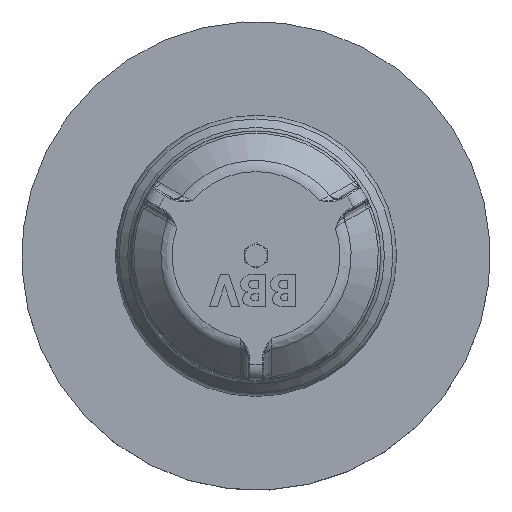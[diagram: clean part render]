
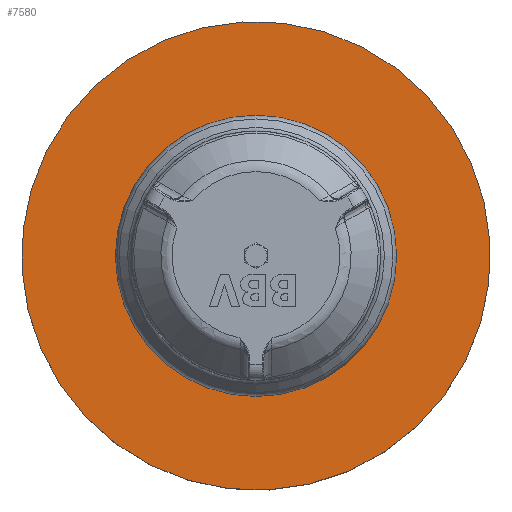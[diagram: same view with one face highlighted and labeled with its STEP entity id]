
A CAD part, top view. The second image highlights one B-rep face of the part: STEP entity #7580.
In plain terms, the highlighted planar face has unit normal (0, 0, 1).
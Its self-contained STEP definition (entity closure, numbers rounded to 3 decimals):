
#1163=FACE_OUTER_BOUND('',#1620,.T.);
#1620=EDGE_LOOP('',(#4697));
#2092=CIRCLE('',#8072,147.5);
#2787=VERTEX_POINT('',#11511);
#3534=EDGE_CURVE('',#2787,#2787,#2092,.T.);
#4697=ORIENTED_EDGE('',*,*,#3534,.T.);
#7023=PLANE('',#8071);
#7580=ADVANCED_FACE('',(#1163),#7023,.T.);
#8071=AXIS2_PLACEMENT_3D('',#11510,#9125,#9126);
#8072=AXIS2_PLACEMENT_3D('',#11512,#9127,#9128);
#9125=DIRECTION('center_axis',(0.,0.,
1.));
#9126=DIRECTION('ref_axis',(-0.229,0.973,0.));
#9127=DIRECTION('center_axis',(0.,0.,
1.));
#9128=DIRECTION('ref_axis',(-0.229,0.973,0.));
#11510=CARTESIAN_POINT('Origin',(0.,0.,
29.039));
#11511=CARTESIAN_POINT('',(33.822,-143.57,29.039));
#11512=CARTESIAN_POINT('Origin',(0.,0.,
29.039));
